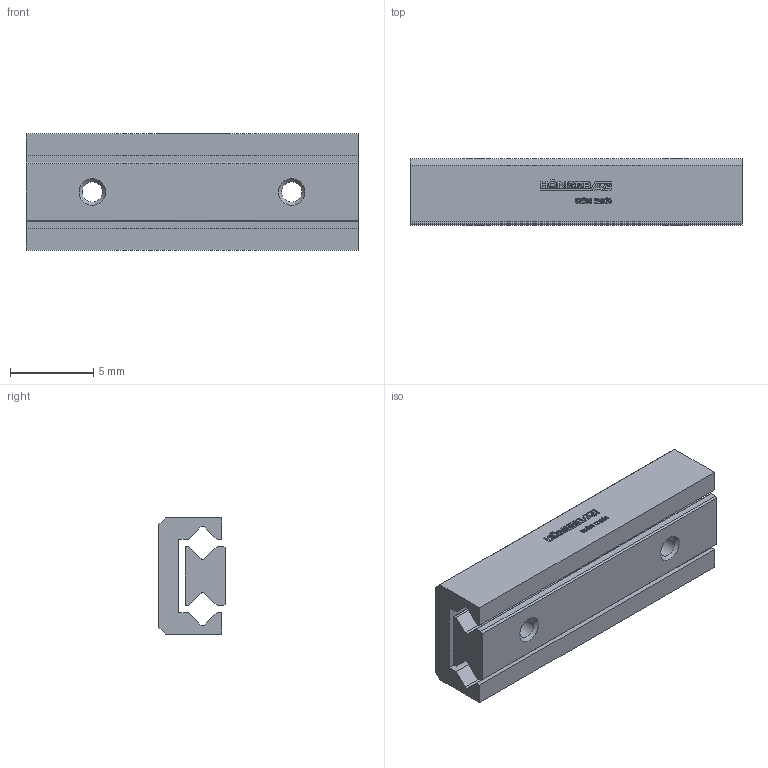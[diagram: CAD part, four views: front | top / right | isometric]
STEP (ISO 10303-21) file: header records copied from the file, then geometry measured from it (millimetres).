
FILE_DESCRIPTION(/* description */ ('STEP AP214'),/* implementation_level */ '2;1');
FILE_NAME(/* name */ 'MSR 4-20.16(0)',/* time_stamp */ '2025-04-16T17:16:10+02:00',/* author */ ('License CC BY-ND 4.0'),/* organization */ ('CADENAS'),/* preprocessor_version */ 'ST-DEVELOPER v19.3',/* originating_system */ 'PARTsolutions',/* authorisation */ ' ');
FILE_SCHEMA (('AUTOMOTIVE_DESIGN {1 0 10303 214 3 1 1}'));
Length unit declared in the file: millimetre
Products named in the file (3): MSR 4-20.16(0); MSR 4-20.16_1; MSR 4-20.16_2
Assembly tree (2 placements, depth 2):
  MSR 4-20.16(0)
    MSR 4-20.16_1
    MSR 4-20.16_2
Bounding box: 20 x 4 x 7 mm (x, y, z)
Volume: 404.4 mm3; surface area: 880.8 mm2
Topology: 2 solids, 2 shells, 513 faces, 1442 edges, 960 vertices
Faces by surface type: cylinder 300, plane 207, cone 6
Full cylindrical faces by diameter (mm): 1.221 x4
Entity records: 16813 total; most frequent: DIRECTION 3068, CARTESIAN_POINT 2904, ORIENTED_EDGE 2860, EDGE_CURVE 1430, AXIS2_PLACEMENT_3D 1122, VERTEX_POINT 958, LINE 824, VECTOR 824
